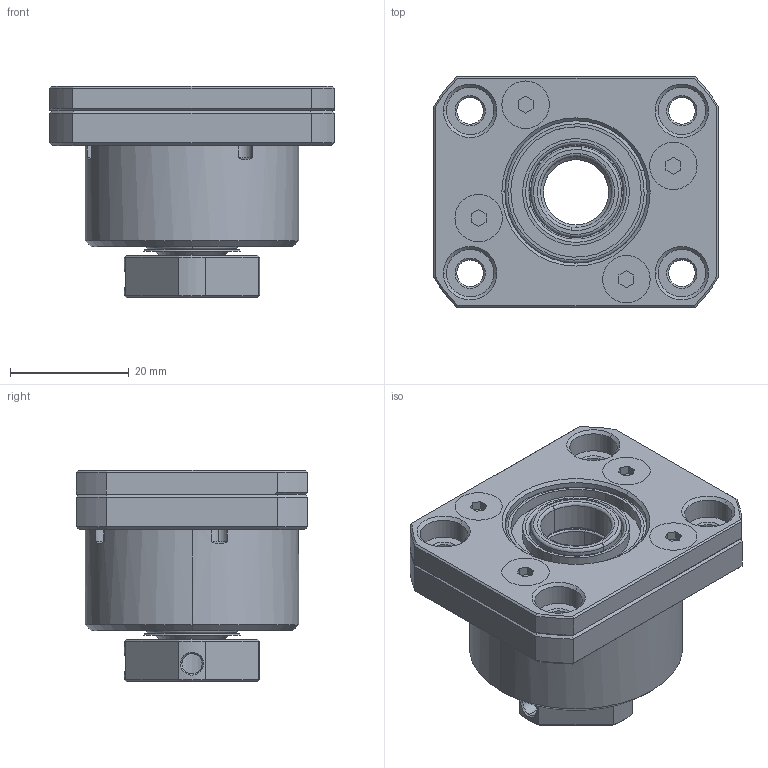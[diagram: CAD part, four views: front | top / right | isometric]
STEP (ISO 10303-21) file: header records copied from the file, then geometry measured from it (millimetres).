
FILE_DESCRIPTION (( 'STEP AP203' ), '1' );
FILE_NAME ('FKA12²Õ¦X¥óB.STEP', '2021-09-29T02:52:35', ( '' ), ( '' ), 'SwSTEP 2.0', 'SolidWorks 2018', '' );
FILE_SCHEMA (( 'CONFIG_CONTROL_DESIGN' ));
Length unit declared in the file: millimetre
Products named in the file (1): FKA12組合件B
Bounding box: 48 x 39 x 35.6 mm (x, y, z)
Surface area: 13484.8 mm2 (no closed solid volume)
Topology: 0 solids, 19 shells, 241 faces, 616 edges, 393 vertices
Faces by surface type: plane 84, cylinder 69, cone 62, torus 22, bspline 4
Entity records: 7915 total; most frequent: CARTESIAN_POINT 1897, DIRECTION 1329, ORIENTED_EDGE 1121, EDGE_CURVE 616, AXIS2_PLACEMENT_3D 541, VERTEX_POINT 393, CIRCLE 303, EDGE_LOOP 287
